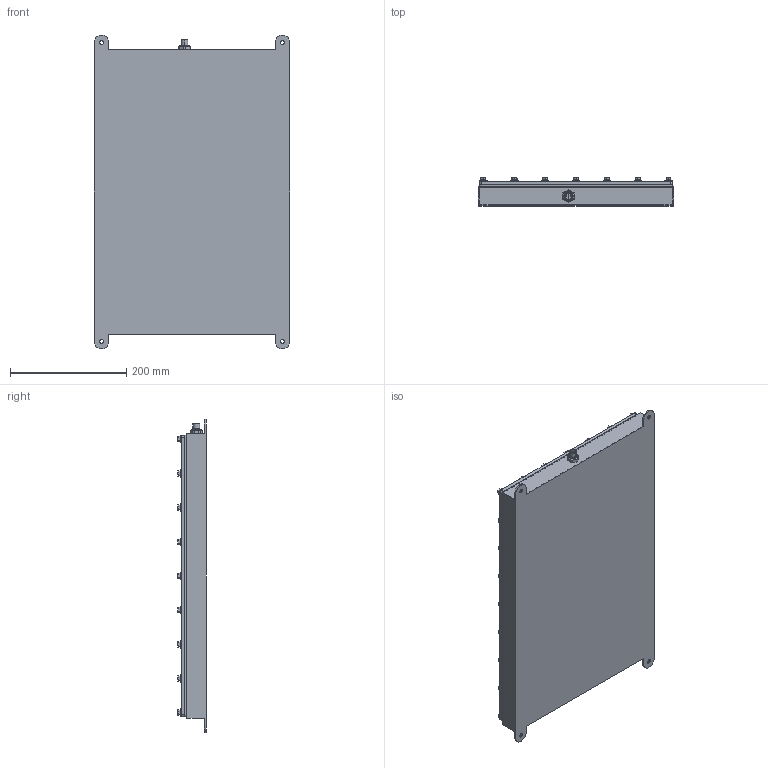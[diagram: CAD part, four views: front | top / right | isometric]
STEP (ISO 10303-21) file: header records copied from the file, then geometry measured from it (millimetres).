
FILE_DESCRIPTION (( 'STEP AP203' ), '1' );
FILE_NAME ('SOBLW-450x300.STEP', '2013-04-04T19:45:23', ( '' ), ( '' ), 'SwSTEP 2.0', 'SolidWorks 2012', '' );
FILE_SCHEMA (( 'CONFIG_CONTROL_DESIGN' ));
Length unit declared in the file: inch
Products named in the file (8): SOBLW-450x300; MALE M12 PLUG (CIRCUIT BOARD); SM5+ 6BSW; SM5x20 6H; LA-VP016 (LA-AZ R1.1); LA-GK016 (LA-AZ); SM5mm WELD NUT_94100A140; LA-BODY014 (LA-AZ BODY)
Assembly tree (88 placements, depth 2):
  SOBLW-450x300
    LA-BODY014 (LA-AZ BODY)
    SM5mm WELD NUT_94100A140  x28
    LA-GK016 (LA-AZ)
    LA-VP016 (LA-AZ R1.1)
    SM5x20 6H  x28
    SM5+ 6BSW  x28
    MALE M12 PLUG (CIRCUIT BOARD)
Bounding box: 336.55 x 48.23 x 539.75 mm (x, y, z)
Volume: 1612433.8 mm3; surface area: 902319.6 mm2
Topology: 116 solids, 116 shells, 1672 faces, 3576 edges, 2265 vertices
Faces by surface type: cylinder 737, plane 577, cone 358
Entity records: 15659 total; most frequent: DIRECTION 2449, CARTESIAN_POINT 2142, ORIENTED_EDGE 1968, AXIS2_PLACEMENT_3D 1004, EDGE_CURVE 984, VERTEX_POINT 645, EDGE_LOOP 581, CIRCLE 537
